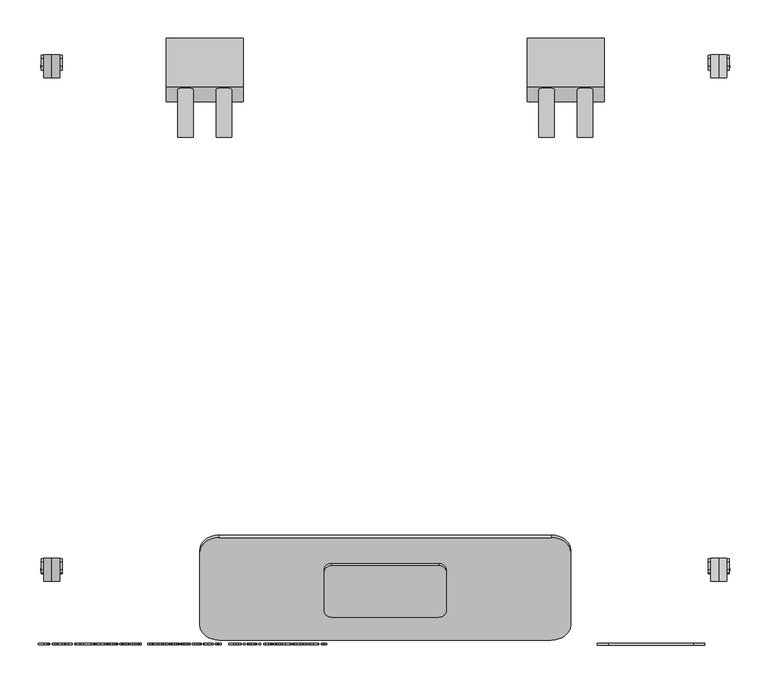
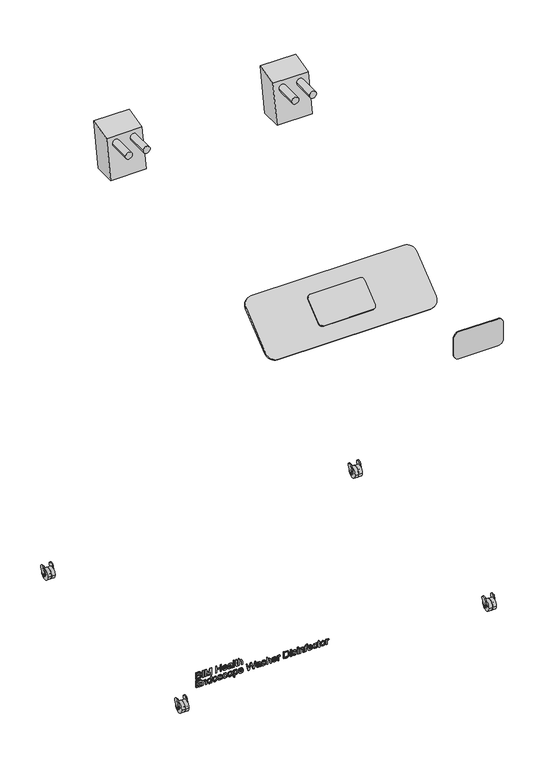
"""IFC4 building model written with IfcOpenShell, lengths in millimetres: proxy geometry, BIMHealth-Endoscope_Washer_Disinfector-LOD2A-v1 : BIMHealth-Endoscope_Washer_Disinfector-LOD2A-v1."""

from ifc_helpers import new_model, si_unit, point, frame, frame_2d, origin, place, context, project, spatial, polyline, circle_curve, trimmed, segment, composite_curve, outline, extrude, source, transform, mapped, element, save


def generic_models_fa798d0b(model_context):
    return source(origin(), model_context, "Body", "SweptSolid", [
        extrude(outline(composite_curve([segment(trimmed(circle_curve(frame_2d((-318.4903608, 15.008335)), 1.691665), [point((-316.7986957, 15.008335))], [point((-320.1820258, 15.008335))], False, "CARTESIAN"), True, "CONTINUOUS"), segment(trimmed(circle_curve(frame_2d((-318.4903608, 15.008335)), 1.691665), [point((-320.1820258, 15.008335))], [point((-316.7986957, 15.008335))], False, "CARTESIAN"), True, "CONTINUOUS")], self_intersect=False)), frame((-448.0086394, 0.0, 0.0), z_axis=(1.0, 0.0, 0.0), x_axis=(0.0, 1.0, 0.0)), (0.0, 0.0, 1.0), 27.815557),
        extrude(outline(composite_curve([segment(polyline([(-304.9439148, 28.8074652), (-314.9439148, 11.4869571)]), True, "CONTINUOUS"), segment(trimmed(circle_curve(frame_2d((-318.4932776, 15.0363199)), 5.019557), [point((-314.9439148, 11.4869571))], [point((-323.3417974, 16.3354769))], False, "CARTESIAN"), True, "CONTINUOUS"), segment(polyline([(-323.3417974, 16.3354769), (-317.5368059, 38.0), (-308.6759076, 38.0)]), True, "CONTINUOUS"), segment(trimmed(circle_curve(frame_2d((-310.3884962, 31.9508957)), 6.2868611), [point((-308.6759076, 38.0))], [point((-304.9439148, 28.8074652))], False, "CARTESIAN"), True, "CONTINUOUS")], self_intersect=False), holes=[composite_curve([segment(trimmed(circle_curve(frame_2d((-318.4932776, 15.0363199)), 1.6662236), [point((-316.8270541, 15.0363199))], [point((-320.1595012, 15.0363199))], True, "CARTESIAN"), True, "CONTINUOUS"), segment(trimmed(circle_curve(frame_2d((-318.4932776, 15.0363199)), 1.6662236), [point((-320.1595012, 15.0363199))], [point((-316.8270541, 15.0363199))], True, "CARTESIAN"), True, "CONTINUOUS")], self_intersect=False)]), frame((-447.5086394, 0.0, 0.0), z_axis=(1.0, 0.0, 0.0), x_axis=(0.0, 1.0, 0.0)), (0.0, 0.0, 1.0), 2.5),
        extrude(outline(composite_curve([segment(polyline([(-304.9439148, 28.8074652), (-314.9439148, 11.4869571)]), True, "CONTINUOUS"), segment(trimmed(circle_curve(frame_2d((-318.4932776, 15.0363199)), 5.019557), [point((-314.9439148, 11.4869571))], [point((-323.3417974, 16.3354769))], False, "CARTESIAN"), True, "CONTINUOUS"), segment(polyline([(-323.3417974, 16.3354769), (-317.5368059, 38.0), (-308.6759076, 38.0)]), True, "CONTINUOUS"), segment(trimmed(circle_curve(frame_2d((-310.3884962, 31.9508957)), 6.2868611), [point((-308.6759076, 38.0))], [point((-304.9439148, 28.8074652))], False, "CARTESIAN"), True, "CONTINUOUS")], self_intersect=False), holes=[composite_curve([segment(trimmed(circle_curve(frame_2d((-318.4932776, 15.0363199)), 1.6662236), [point((-316.8270541, 15.0363199))], [point((-320.1595012, 15.0363199))], True, "CARTESIAN"), True, "CONTINUOUS"), segment(trimmed(circle_curve(frame_2d((-318.4932776, 15.0363199)), 1.6662236), [point((-320.1595012, 15.0363199))], [point((-316.8270541, 15.0363199))], True, "CARTESIAN"), True, "CONTINUOUS")], self_intersect=False)]), frame((-423.0086394, 0.0, 0.0), z_axis=(1.0, 0.0, 0.0), x_axis=(0.0, 1.0, 0.0)), (0.0, 0.0, 1.0), 2.5),
        extrude(outline(composite_curve([segment(trimmed(circle_curve(frame_2d((-318.4903608, 15.0)), 15.0), [point((-303.4903608, 15.0))], [point((-333.4903608, 15.0))], False, "CARTESIAN"), True, "CONTINUOUS"), segment(trimmed(circle_curve(frame_2d((-318.4903608, 15.0)), 15.0), [point((-333.4903608, 15.0))], [point((-303.4903608, 15.0))], False, "CARTESIAN"), True, "CONTINUOUS")], self_intersect=False), holes=[composite_curve([segment(trimmed(circle_curve(frame_2d((-318.4903608, 15.0)), 1.7), [point((-316.7903608, 15.0))], [point((-320.1903608, 15.0))], True, "CARTESIAN"), True, "CONTINUOUS"), segment(trimmed(circle_curve(frame_2d((-318.4903608, 15.0)), 1.7), [point((-320.1903608, 15.0))], [point((-316.7903608, 15.0))], True, "CARTESIAN"), True, "CONTINUOUS")], self_intersect=False)]), frame((-444.3836394, 0.0, 0.0), z_axis=(1.0, 0.0, 0.0), x_axis=(0.0, 1.0, 0.0)), (0.0, 0.0, 1.0), 10.0),
        extrude(outline(composite_curve([segment(trimmed(circle_curve(frame_2d((-318.4903608, 15.0)), 15.0), [point((-303.4903608, 15.0))], [point((-333.4903608, 15.0))], False, "CARTESIAN"), True, "CONTINUOUS"), segment(trimmed(circle_curve(frame_2d((-318.4903608, 15.0)), 15.0), [point((-333.4903608, 15.0))], [point((-303.4903608, 15.0))], False, "CARTESIAN"), True, "CONTINUOUS")], self_intersect=False), holes=[composite_curve([segment(trimmed(circle_curve(frame_2d((-318.4903608, 15.0)), 1.7), [point((-316.7903608, 15.0))], [point((-320.1903608, 15.0))], True, "CARTESIAN"), True, "CONTINUOUS"), segment(trimmed(circle_curve(frame_2d((-318.4903608, 15.0)), 1.7), [point((-320.1903608, 15.0))], [point((-316.7903608, 15.0))], True, "CARTESIAN"), True, "CONTINUOUS")], self_intersect=False)]), frame((-433.6336394, 0.0, 0.0), z_axis=(1.0, 0.0, 0.0), x_axis=(0.0, 1.0, 0.0)), (0.0, 0.0, 1.0), 10.0),
        extrude(outline(composite_curve([segment(trimmed(circle_curve(frame_2d((-318.4903608, 15.008335)), 1.691665), [point((-316.7986957, 15.008335))], [point((-320.1820258, 15.008335))], False, "CARTESIAN"), True, "CONTINUOUS"), segment(trimmed(circle_curve(frame_2d((-318.4903608, 15.008335)), 1.691665), [point((-320.1820258, 15.008335))], [point((-316.7986957, 15.008335))], False, "CARTESIAN"), True, "CONTINUOUS")], self_intersect=False)), frame((420.1930824, 0.0, 0.0), z_axis=(1.0, 0.0, 0.0), x_axis=(0.0, 1.0, 0.0)), (0.0, 0.0, 1.0), 27.815557),
        extrude(outline(composite_curve([segment(polyline([(-304.9439148, 28.8074652), (-314.9439148, 11.4869571)]), True, "CONTINUOUS"), segment(trimmed(circle_curve(frame_2d((-318.4932776, 15.0363199)), 5.019557), [point((-314.9439148, 11.4869571))], [point((-323.3417974, 16.3354769))], False, "CARTESIAN"), True, "CONTINUOUS"), segment(polyline([(-323.3417974, 16.3354769), (-317.5368059, 38.0), (-308.6759076, 38.0)]), True, "CONTINUOUS"), segment(trimmed(circle_curve(frame_2d((-310.3884962, 31.9508957)), 6.2868611), [point((-308.6759076, 38.0))], [point((-304.9439148, 28.8074652))], False, "CARTESIAN"), True, "CONTINUOUS")], self_intersect=False), holes=[composite_curve([segment(trimmed(circle_curve(frame_2d((-318.4932776, 15.0363199)), 1.6662236), [point((-316.8270541, 15.0363199))], [point((-320.1595012, 15.0363199))], True, "CARTESIAN"), True, "CONTINUOUS"), segment(trimmed(circle_curve(frame_2d((-318.4932776, 15.0363199)), 1.6662236), [point((-320.1595012, 15.0363199))], [point((-316.8270541, 15.0363199))], True, "CARTESIAN"), True, "CONTINUOUS")], self_intersect=False)]), frame((445.0086394, 0.0, 0.0), z_axis=(1.0, 0.0, 0.0), x_axis=(0.0, 1.0, 0.0)), (0.0, 0.0, 1.0), 2.5),
        extrude(outline(composite_curve([segment(polyline([(-304.9439148, 28.8074652), (-314.9439148, 11.4869571)]), True, "CONTINUOUS"), segment(trimmed(circle_curve(frame_2d((-318.4932776, 15.0363199)), 5.019557), [point((-314.9439148, 11.4869571))], [point((-323.3417974, 16.3354769))], False, "CARTESIAN"), True, "CONTINUOUS"), segment(polyline([(-323.3417974, 16.3354769), (-317.5368059, 38.0), (-308.6759076, 38.0)]), True, "CONTINUOUS"), segment(trimmed(circle_curve(frame_2d((-310.3884962, 31.9508957)), 6.2868611), [point((-308.6759076, 38.0))], [point((-304.9439148, 28.8074652))], False, "CARTESIAN"), True, "CONTINUOUS")], self_intersect=False), holes=[composite_curve([segment(trimmed(circle_curve(frame_2d((-318.4932776, 15.0363199)), 1.6662236), [point((-316.8270541, 15.0363199))], [point((-320.1595012, 15.0363199))], True, "CARTESIAN"), True, "CONTINUOUS"), segment(trimmed(circle_curve(frame_2d((-318.4932776, 15.0363199)), 1.6662236), [point((-320.1595012, 15.0363199))], [point((-316.8270541, 15.0363199))], True, "CARTESIAN"), True, "CONTINUOUS")], self_intersect=False)]), frame((420.5086394, 0.0, 0.0), z_axis=(1.0, 0.0, 0.0), x_axis=(0.0, 1.0, 0.0)), (0.0, 0.0, 1.0), 2.5),
        extrude(outline(composite_curve([segment(trimmed(circle_curve(frame_2d((-318.4903608, 15.0)), 15.0), [point((-303.4903608, 15.0))], [point((-333.4903608, 15.0))], False, "CARTESIAN"), True, "CONTINUOUS"), segment(trimmed(circle_curve(frame_2d((-318.4903608, 15.0)), 15.0), [point((-333.4903608, 15.0))], [point((-303.4903608, 15.0))], False, "CARTESIAN"), True, "CONTINUOUS")], self_intersect=False), holes=[composite_curve([segment(trimmed(circle_curve(frame_2d((-318.4903608, 15.0)), 1.7), [point((-316.7903608, 15.0))], [point((-320.1903608, 15.0))], True, "CARTESIAN"), True, "CONTINUOUS"), segment(trimmed(circle_curve(frame_2d((-318.4903608, 15.0)), 1.7), [point((-320.1903608, 15.0))], [point((-316.7903608, 15.0))], True, "CARTESIAN"), True, "CONTINUOUS")], self_intersect=False)]), frame((434.3836394, 0.0, 0.0), z_axis=(1.0, 0.0, 0.0), x_axis=(0.0, 1.0, 0.0)), (0.0, 0.0, 1.0), 10.0),
        extrude(outline(composite_curve([segment(trimmed(circle_curve(frame_2d((-318.4903608, 15.0)), 15.0), [point((-303.4903608, 15.0))], [point((-333.4903608, 15.0))], False, "CARTESIAN"), True, "CONTINUOUS"), segment(trimmed(circle_curve(frame_2d((-318.4903608, 15.0)), 15.0), [point((-333.4903608, 15.0))], [point((-303.4903608, 15.0))], False, "CARTESIAN"), True, "CONTINUOUS")], self_intersect=False), holes=[composite_curve([segment(trimmed(circle_curve(frame_2d((-318.4903608, 15.0)), 1.7), [point((-316.7903608, 15.0))], [point((-320.1903608, 15.0))], True, "CARTESIAN"), True, "CONTINUOUS"), segment(trimmed(circle_curve(frame_2d((-318.4903608, 15.0)), 1.7), [point((-320.1903608, 15.0))], [point((-316.7903608, 15.0))], True, "CARTESIAN"), True, "CONTINUOUS")], self_intersect=False)]), frame((423.6336394, 0.0, 0.0), z_axis=(1.0, 0.0, 0.0), x_axis=(0.0, 1.0, 0.0)), (0.0, 0.0, 1.0), 10.0),
        extrude(outline(composite_curve([segment(trimmed(circle_curve(frame_2d((336.5096392, 15.008335)), 1.691665), [point((338.2013043, 15.008335))], [point((334.8179742, 15.008335))], False, "CARTESIAN"), True, "CONTINUOUS"), segment(trimmed(circle_curve(frame_2d((336.5096392, 15.008335)), 1.691665), [point((334.8179742, 15.008335))], [point((338.2013043, 15.008335))], False, "CARTESIAN"), True, "CONTINUOUS")], self_intersect=False)), frame((-448.0086394, 0.0, 0.0), z_axis=(1.0, 0.0, 0.0), x_axis=(0.0, 1.0, 0.0)), (0.0, 0.0, 1.0), 27.815557),
        extrude(outline(composite_curve([segment(polyline([(350.0560852, 28.8074652), (340.0560852, 11.4869571)]), True, "CONTINUOUS"), segment(trimmed(circle_curve(frame_2d((336.5067224, 15.0363199)), 5.019557), [point((340.0560852, 11.4869571))], [point((331.6582026, 16.3354769))], False, "CARTESIAN"), True, "CONTINUOUS"), segment(polyline([(331.6582026, 16.3354769), (337.4631941, 38.0), (346.3240924, 38.0)]), True, "CONTINUOUS"), segment(trimmed(circle_curve(frame_2d((344.6115038, 31.9508957)), 6.2868611), [point((346.3240924, 38.0))], [point((350.0560852, 28.8074652))], False, "CARTESIAN"), True, "CONTINUOUS")], self_intersect=False), holes=[composite_curve([segment(trimmed(circle_curve(frame_2d((336.5067224, 15.0363199)), 1.6662236), [point((338.1729459, 15.0363199))], [point((334.8404988, 15.0363199))], True, "CARTESIAN"), True, "CONTINUOUS"), segment(trimmed(circle_curve(frame_2d((336.5067224, 15.0363199)), 1.6662236), [point((334.8404988, 15.0363199))], [point((338.1729459, 15.0363199))], True, "CARTESIAN"), True, "CONTINUOUS")], self_intersect=False)]), frame((-447.5086394, 0.0, 0.0), z_axis=(1.0, 0.0, 0.0), x_axis=(0.0, 1.0, 0.0)), (0.0, 0.0, 1.0), 2.5),
        extrude(outline(composite_curve([segment(polyline([(350.0560852, 28.8074652), (340.0560852, 11.4869571)]), True, "CONTINUOUS"), segment(trimmed(circle_curve(frame_2d((336.5067224, 15.0363199)), 5.019557), [point((340.0560852, 11.4869571))], [point((331.6582026, 16.3354769))], False, "CARTESIAN"), True, "CONTINUOUS"), segment(polyline([(331.6582026, 16.3354769), (337.4631941, 38.0), (346.3240924, 38.0)]), True, "CONTINUOUS"), segment(trimmed(circle_curve(frame_2d((344.6115038, 31.9508957)), 6.2868611), [point((346.3240924, 38.0))], [point((350.0560852, 28.8074652))], False, "CARTESIAN"), True, "CONTINUOUS")], self_intersect=False), holes=[composite_curve([segment(trimmed(circle_curve(frame_2d((336.5067224, 15.0363199)), 1.6662236), [point((338.1729459, 15.0363199))], [point((334.8404988, 15.0363199))], True, "CARTESIAN"), True, "CONTINUOUS"), segment(trimmed(circle_curve(frame_2d((336.5067224, 15.0363199)), 1.6662236), [point((334.8404988, 15.0363199))], [point((338.1729459, 15.0363199))], True, "CARTESIAN"), True, "CONTINUOUS")], self_intersect=False)]), frame((-423.0086394, 0.0, 0.0), z_axis=(1.0, 0.0, 0.0), x_axis=(0.0, 1.0, 0.0)), (0.0, 0.0, 1.0), 2.5),
        extrude(outline(composite_curve([segment(trimmed(circle_curve(frame_2d((336.5096392, 15.0)), 15.0), [point((351.5096392, 15.0))], [point((321.5096392, 15.0))], False, "CARTESIAN"), True, "CONTINUOUS"), segment(trimmed(circle_curve(frame_2d((336.5096392, 15.0)), 15.0), [point((321.5096392, 15.0))], [point((351.5096392, 15.0))], False, "CARTESIAN"), True, "CONTINUOUS")], self_intersect=False), holes=[composite_curve([segment(trimmed(circle_curve(frame_2d((336.5096392, 15.0)), 1.7), [point((338.2096392, 15.0))], [point((334.8096392, 15.0))], True, "CARTESIAN"), True, "CONTINUOUS"), segment(trimmed(circle_curve(frame_2d((336.5096392, 15.0)), 1.7), [point((334.8096392, 15.0))], [point((338.2096392, 15.0))], True, "CARTESIAN"), True, "CONTINUOUS")], self_intersect=False)]), frame((-444.3836394, 0.0, 0.0), z_axis=(1.0, 0.0, 0.0), x_axis=(0.0, 1.0, 0.0)), (0.0, 0.0, 1.0), 10.0),
        extrude(outline(composite_curve([segment(trimmed(circle_curve(frame_2d((336.5096392, 15.0)), 15.0), [point((351.5096392, 15.0))], [point((321.5096392, 15.0))], False, "CARTESIAN"), True, "CONTINUOUS"), segment(trimmed(circle_curve(frame_2d((336.5096392, 15.0)), 15.0), [point((321.5096392, 15.0))], [point((351.5096392, 15.0))], False, "CARTESIAN"), True, "CONTINUOUS")], self_intersect=False), holes=[composite_curve([segment(trimmed(circle_curve(frame_2d((336.5096392, 15.0)), 1.7), [point((338.2096392, 15.0))], [point((334.8096392, 15.0))], True, "CARTESIAN"), True, "CONTINUOUS"), segment(trimmed(circle_curve(frame_2d((336.5096392, 15.0)), 1.7), [point((334.8096392, 15.0))], [point((338.2096392, 15.0))], True, "CARTESIAN"), True, "CONTINUOUS")], self_intersect=False)]), frame((-433.6336394, 0.0, 0.0), z_axis=(1.0, 0.0, 0.0), x_axis=(0.0, 1.0, 0.0)), (0.0, 0.0, 1.0), 10.0),
        extrude(outline(composite_curve([segment(trimmed(circle_curve(frame_2d((336.5096392, 15.008335)), 1.691665), [point((338.2013043, 15.008335))], [point((334.8179742, 15.008335))], False, "CARTESIAN"), True, "CONTINUOUS"), segment(trimmed(circle_curve(frame_2d((336.5096392, 15.008335)), 1.691665), [point((334.8179742, 15.008335))], [point((338.2013043, 15.008335))], False, "CARTESIAN"), True, "CONTINUOUS")], self_intersect=False)), frame((420.1930824, 0.0, 0.0), z_axis=(1.0, 0.0, 0.0), x_axis=(0.0, 1.0, 0.0)), (0.0, 0.0, 1.0), 27.815557),
        extrude(outline(composite_curve([segment(polyline([(350.0560852, 28.8074652), (340.0560852, 11.4869571)]), True, "CONTINUOUS"), segment(trimmed(circle_curve(frame_2d((336.5067224, 15.0363199)), 5.019557), [point((340.0560852, 11.4869571))], [point((331.6582026, 16.3354769))], False, "CARTESIAN"), True, "CONTINUOUS"), segment(polyline([(331.6582026, 16.3354769), (337.4631941, 38.0), (346.3240924, 38.0)]), True, "CONTINUOUS"), segment(trimmed(circle_curve(frame_2d((344.6115038, 31.9508957)), 6.2868611), [point((346.3240924, 38.0))], [point((350.0560852, 28.8074652))], False, "CARTESIAN"), True, "CONTINUOUS")], self_intersect=False), holes=[composite_curve([segment(trimmed(circle_curve(frame_2d((336.5067224, 15.0363199)), 1.6662236), [point((338.1729459, 15.0363199))], [point((334.8404988, 15.0363199))], True, "CARTESIAN"), True, "CONTINUOUS"), segment(trimmed(circle_curve(frame_2d((336.5067224, 15.0363199)), 1.6662236), [point((334.8404988, 15.0363199))], [point((338.1729459, 15.0363199))], True, "CARTESIAN"), True, "CONTINUOUS")], self_intersect=False)]), frame((445.0086394, 0.0, 0.0), z_axis=(1.0, 0.0, 0.0), x_axis=(0.0, 1.0, 0.0)), (0.0, 0.0, 1.0), 2.5),
        extrude(outline(composite_curve([segment(polyline([(350.0560852, 28.8074652), (340.0560852, 11.4869571)]), True, "CONTINUOUS"), segment(trimmed(circle_curve(frame_2d((336.5067224, 15.0363199)), 5.019557), [point((340.0560852, 11.4869571))], [point((331.6582026, 16.3354769))], False, "CARTESIAN"), True, "CONTINUOUS"), segment(polyline([(331.6582026, 16.3354769), (337.4631941, 38.0), (346.3240924, 38.0)]), True, "CONTINUOUS"), segment(trimmed(circle_curve(frame_2d((344.6115038, 31.9508957)), 6.2868611), [point((346.3240924, 38.0))], [point((350.0560852, 28.8074652))], False, "CARTESIAN"), True, "CONTINUOUS")], self_intersect=False), holes=[composite_curve([segment(trimmed(circle_curve(frame_2d((336.5067224, 15.0363199)), 1.6662236), [point((338.1729459, 15.0363199))], [point((334.8404988, 15.0363199))], True, "CARTESIAN"), True, "CONTINUOUS"), segment(trimmed(circle_curve(frame_2d((336.5067224, 15.0363199)), 1.6662236), [point((334.8404988, 15.0363199))], [point((338.1729459, 15.0363199))], True, "CARTESIAN"), True, "CONTINUOUS")], self_intersect=False)]), frame((420.5086394, 0.0, 0.0), z_axis=(1.0, 0.0, 0.0), x_axis=(0.0, 1.0, 0.0)), (0.0, 0.0, 1.0), 2.5),
        extrude(outline(composite_curve([segment(trimmed(circle_curve(frame_2d((336.5096392, 15.0)), 15.0), [point((351.5096392, 15.0))], [point((321.5096392, 15.0))], False, "CARTESIAN"), True, "CONTINUOUS"), segment(trimmed(circle_curve(frame_2d((336.5096392, 15.0)), 15.0), [point((321.5096392, 15.0))], [point((351.5096392, 15.0))], False, "CARTESIAN"), True, "CONTINUOUS")], self_intersect=False), holes=[composite_curve([segment(trimmed(circle_curve(frame_2d((336.5096392, 15.0)), 1.7), [point((338.2096392, 15.0))], [point((334.8096392, 15.0))], True, "CARTESIAN"), True, "CONTINUOUS"), segment(trimmed(circle_curve(frame_2d((336.5096392, 15.0)), 1.7), [point((334.8096392, 15.0))], [point((338.2096392, 15.0))], True, "CARTESIAN"), True, "CONTINUOUS")], self_intersect=False)]), frame((434.3836394, 0.0, 0.0), z_axis=(1.0, 0.0, 0.0), x_axis=(0.0, 1.0, 0.0)), (0.0, 0.0, 1.0), 10.0),
        extrude(outline(composite_curve([segment(trimmed(circle_curve(frame_2d((336.5096392, 15.0)), 15.0), [point((351.5096392, 15.0))], [point((321.5096392, 15.0))], False, "CARTESIAN"), True, "CONTINUOUS"), segment(trimmed(circle_curve(frame_2d((336.5096392, 15.0)), 15.0), [point((321.5096392, 15.0))], [point((351.5096392, 15.0))], False, "CARTESIAN"), True, "CONTINUOUS")], self_intersect=False), holes=[composite_curve([segment(trimmed(circle_curve(frame_2d((336.5096392, 15.0)), 1.7), [point((338.2096392, 15.0))], [point((334.8096392, 15.0))], True, "CARTESIAN"), True, "CONTINUOUS"), segment(trimmed(circle_curve(frame_2d((336.5096392, 15.0)), 1.7), [point((334.8096392, 15.0))], [point((338.2096392, 15.0))], True, "CARTESIAN"), True, "CONTINUOUS")], self_intersect=False)]), frame((423.6336394, 0.0, 0.0), z_axis=(1.0, 0.0, 0.0), x_axis=(0.0, 1.0, 0.0)), (0.0, 0.0, 1.0), 10.0),
        extrude(outline(composite_curve([segment(polyline([(937.9659967, 400.7121143), (937.9659967, 290.7121143)]), True, "CONTINUOUS"), segment(trimmed(circle_curve(frame_2d((922.9659967, 290.7121143)), 15.0), [point((937.9659967, 290.7121143))], [point((922.9659967, 275.7121143))], False, "CARTESIAN"), True, "CONTINUOUS"), segment(polyline([(922.9659967, 275.7121143), (872.9659967, 275.7121143)]), True, "CONTINUOUS"), segment(trimmed(circle_curve(frame_2d((872.9659967, 290.7121143)), 15.0), [point((872.9659967, 275.7121143))], [point((857.9659967, 290.7121143))], False, "CARTESIAN"), True, "CONTINUOUS"), segment(polyline([(857.9659967, 290.7121143), (857.9659967, 400.7121143)]), True, "CONTINUOUS"), segment(trimmed(circle_curve(frame_2d((872.9659967, 400.7121143)), 15.0), [point((857.9659967, 400.7121143))], [point((872.9659967, 415.7121143))], False, "CARTESIAN"), True, "CONTINUOUS"), segment(polyline([(872.9659967, 415.7121143), (922.9659967, 415.7121143)]), True, "CONTINUOUS"), segment(trimmed(circle_curve(frame_2d((922.9659967, 400.7121143)), 15.0), [point((922.9659967, 415.7121143))], [point((937.9659967, 400.7121143))], False, "CARTESIAN"), True, "CONTINUOUS")], self_intersect=False)), frame((0.0, -416.6759076, 0.0), z_axis=(0.0, 1.0, 0.0), x_axis=(0.0, 0.0, 1.0)), (0.0, 0.0, 1.0), 2.5),
        extrude(outline(composite_curve([segment(trimmed(circle_curve(frame_2d((1256.2528916, 260.0)), 10.0), [point((1256.2528916, 270.0))], [point((1256.2528916, 250.0))], False, "CARTESIAN"), True, "CONTINUOUS"), segment(trimmed(circle_curve(frame_2d((1256.2528916, 260.0)), 10.0), [point((1256.2528916, 250.0))], [point((1256.2528916, 270.0))], False, "CARTESIAN"), True, "CONTINUOUS")], self_intersect=False)), frame((0.0, 244.1180955, 0.0), z_axis=(0.0, 1.0, 0.0), x_axis=(0.0, 0.0, 1.0)), (0.0, 0.0, 1.0), 65.8514449),
        extrude(outline(composite_curve([segment(trimmed(circle_curve(frame_2d((1256.2528916, 210.0)), 10.0), [point((1256.2528916, 200.0))], [point((1256.2528916, 220.0))], False, "CARTESIAN"), True, "CONTINUOUS"), segment(trimmed(circle_curve(frame_2d((1256.2528916, 210.0)), 10.0), [point((1256.2528916, 220.0))], [point((1256.2528916, 200.0))], False, "CARTESIAN"), True, "CONTINUOUS")], self_intersect=False)), frame((0.0, 244.1180955, 0.0), z_axis=(0.0, 1.0, 0.0), x_axis=(0.0, 0.0, 1.0)), (0.0, 0.0, 1.0), 65.8514449),
        extrude(outline(composite_curve([segment(trimmed(circle_curve(frame_2d((1256.2528916, -210.0)), 10.0), [point((1256.2528916, -200.0))], [point((1256.2528916, -220.0))], False, "CARTESIAN"), True, "CONTINUOUS"), segment(trimmed(circle_curve(frame_2d((1256.2528916, -210.0)), 10.0), [point((1256.2528916, -220.0))], [point((1256.2528916, -200.0))], False, "CARTESIAN"), True, "CONTINUOUS")], self_intersect=False)), frame((0.0, 244.1180955, 0.0), z_axis=(0.0, 1.0, 0.0), x_axis=(0.0, 0.0, 1.0)), (0.0, 0.0, 1.0), 65.8514449),
        extrude(outline(composite_curve([segment(trimmed(circle_curve(frame_2d((1256.2528916, -260.0)), 10.0), [point((1256.2528916, -270.0))], [point((1256.2528916, -250.0))], False, "CARTESIAN"), True, "CONTINUOUS"), segment(trimmed(circle_curve(frame_2d((1256.2528916, -260.0)), 10.0), [point((1256.2528916, -250.0))], [point((1256.2528916, -270.0))], False, "CARTESIAN"), True, "CONTINUOUS")], self_intersect=False)), frame((0.0, 244.1180955, 0.0), z_axis=(0.0, 1.0, 0.0), x_axis=(0.0, 0.0, 1.0)), (0.0, 0.0, 1.0), 65.8514449),
        extrude(outline(polyline([(290.0, 1163.0), (309.9695404, 1276.2528916), (372.5742631, 1291.0250079), (350.0, 1163.0), (290.0, 1163.0)])), frame((-285.0, 0.0, 0.0), z_axis=(1.0, 0.0, 0.0), x_axis=(0.0, 1.0, 0.0)), (0.0, 0.0, 1.0), 100.0),
        extrude(outline(polyline([(290.0, 1163.0), (309.9695404, 1276.2528916), (372.5742631, 1291.0250079), (350.0, 1163.0), (290.0, 1163.0)])), frame((185.0, 0.0, 0.0), z_axis=(1.0, 0.0, 0.0), x_axis=(0.0, 1.0, 0.0)), (0.0, 0.0, 1.0), 100.0),
        extrude(outline(polyline([(159.0282221, -451.2091878), (159.0282221, -443.752457), (159.3671645, -440.596207), (160.3671645, -438.4543801), (162.2517798, -437.0192839), (164.8984145, -436.439957), (167.9609145, -437.2885147), (169.7974529, -439.7139955), (171.5402414, -437.7163993), (173.8407221, -437.0553416), (176.3599529, -437.8413993), (178.1412029, -440.0144763), (178.7205298, -443.6947647), (178.7205298, -451.2091878), (159.0282221, -451.2091878)]), holes=[polyline([(170.7205298, -448.7476493), (176.2589914, -448.7476493), (176.2589914, -444.5938032), (176.0017798, -441.4303416), (175.0522606, -440.0120724), (173.4464914, -439.5168801), (171.843126, -440.0481301), (170.9320683, -441.627457), (170.7205298, -444.252457), (170.7205298, -448.7476493)]), polyline([(161.4897606, -448.7476493), (168.2589914, -448.7476493), (168.2589914, -443.939957), (167.9296645, -440.8990916), (166.7878375, -439.3726493), (164.874376, -438.9014955), (162.1219721, -440.3269763), (161.5859145, -441.8726493), (161.4897606, -443.6995724), (161.4897606, -448.7476493)])]), frame((0.0, -416.1759076, 0.0), z_axis=(0.0, 1.0, 0.0), x_axis=(0.0, 0.0, 1.0)), (0.0, 0.0, 1.0), 2.0),
        extrude(outline(polyline([(-430.2861109, -416.1759076), (-432.7476493, -416.1759076), (-432.7476493, -414.1759076), (-430.2861109, -414.1759076), (-430.2861109, -416.1759076)])), frame((0.0, 0.0, 159.0282221), z_axis=(0.0, 0.0, 1.0), x_axis=(1.0, 0.0, 0.0)), (0.0, 0.0, 1.0), 19.6923077),
        extrude(outline(polyline([(159.0282221, -425.3630339), (159.0282221, -422.9014955), (176.2589914, -422.9014955), (159.0282221, -417.9495724), (159.0282221, -414.6178416), (176.2589914, -409.6707263), (159.0282221, -409.6707263), (159.0282221, -407.2091878), (178.7205298, -407.2091878), (178.7205298, -411.4447647), (165.0811068, -415.4063032), (161.9416837, -416.2861109), (164.8407221, -417.1034186), (178.7205298, -421.1418801), (178.7205298, -425.3630339), (159.0282221, -425.3630339)])), frame((0.0, -416.1759076, 0.0), z_axis=(0.0, 1.0, 0.0), x_axis=(0.0, 0.0, 1.0)), (0.0, 0.0, 1.0), 2.0),
        extrude(outline(polyline([(159.0282221, -395.2091878), (159.0282221, -392.7476493), (168.2589914, -392.7476493), (168.2589914, -382.2861109), (159.0282221, -382.2861109), (159.0282221, -379.8245724), (178.7205298, -379.8245724), (178.7205298, -382.2861109), (170.7205298, -382.2861109), (170.7205298, -392.7476493), (178.7205298, -392.7476493), (178.7205298, -395.2091878), (159.0282221, -395.2091878)])), frame((0.0, -416.1759076, 0.0), z_axis=(0.0, 1.0, 0.0), x_axis=(0.0, 0.0, 1.0)), (0.0, 0.0, 1.0), 2.0),
        extrude(outline(polyline([(163.3359145, -365.6995724), (161.6964914, -367.2861109), (161.1820683, -369.6995724), (162.2926452, -372.8702455), (165.4897606, -374.2861109), (166.1532221, -363.2091878), (171.7926452, -365.0769763), (173.7974529, -369.8870724), (171.7878375, -374.8389955), (166.1387991, -376.7476493), (160.6700491, -374.8582263), (158.7205298, -369.7476493), (159.8503375, -365.5433224), (163.0282221, -363.2861109), (163.3359145, -365.6995724)]), holes=[polyline([(167.9512991, -374.2861109), (170.4152414, -372.9279378), (171.3359145, -369.8966878), (170.1820683, -366.6563032), (167.9512991, -365.6707263), (167.9512991, -374.2861109)])]), frame((0.0, -416.1759076, 0.0), z_axis=(0.0, 1.0, 0.0), x_axis=(0.0, 0.0, 1.0)), (0.0, 0.0, 1.0), 2.0),
        extrude(outline(polyline([(160.874376, -351.5168801), (159.0282221, -350.9014955), (159.0282221, -348.439957), (161.0979337, -348.9303416), (165.374376, -349.0553416), (168.436876, -349.0553416), (170.5907221, -349.1755339), (172.2613952, -349.9303416), (173.3599529, -351.6154378), (173.7974529, -354.5986109), (173.3022606, -357.846207), (171.8936068, -359.9904378), (169.4897606, -361.0553416), (169.1820683, -358.5938032), (170.8623568, -357.4063032), (171.3359145, -354.9159186), (170.624376, -352.1947647), (168.2589914, -351.5313032), (167.4128375, -355.8005339), (167.0426452, -357.9303416), (166.2349529, -359.6538993), (164.8214914, -360.8918801), (162.874376, -361.3630339), (159.8887991, -360.1154378), (158.7205298, -356.5409186), (159.2061068, -353.9038993), (160.874376, -351.5168801)]), holes=[polyline([(165.4488952, -351.5240916), (163.1964914, -351.9207263), (161.7710106, -353.5264955), (161.1820683, -356.0168801), (164.6436068, -357.6058224), (165.0426452, -355.4880339), (165.4488952, -351.5240916)])]), frame((0.0, -416.1759076, 0.0), z_axis=(0.0, 1.0, 0.0), x_axis=(0.0, 0.0, 1.0)), (0.0, 0.0, 1.0), 2.0),
        extrude(outline(polyline([(-343.2091878, -416.1759076), (-345.6707263, -416.1759076), (-345.6707263, -414.1759076), (-343.2091878, -414.1759076), (-343.2091878, -416.1759076)])), frame((0.0, 0.0, 159.0282221), z_axis=(0.0, 0.0, 1.0), x_axis=(1.0, 0.0, 0.0)), (0.0, 0.0, 1.0), 19.6923077),
        extrude(outline(polyline([(162.0738952, -335.5168801), (171.0282221, -336.7476493), (171.0282221, -334.2861109), (173.4897606, -334.2861109), (173.4897606, -336.7476493), (178.4512991, -336.7476493), (177.0041837, -339.2091878), (173.4897606, -339.2091878), (173.4897606, -341.0553416), (171.0282221, -341.0553416), (171.0282221, -339.2091878), (162.9945683, -339.2091878), (159.1291837, -337.8822647), (158.7205298, -335.8197647), (158.9561068, -333.9784186), (162.0738952, -335.5168801)])), frame((0.0, -416.1759076, 0.0), z_axis=(0.0, 1.0, 0.0), x_axis=(0.0, 0.0, 1.0)), (0.0, 0.0, 1.0), 2.0),
        extrude(outline(polyline([(159.0282221, -331.8245724), (159.0282221, -329.3630339), (166.7109145, -329.3630339), (169.3022606, -328.9615916), (170.7878375, -327.6154378), (171.3359145, -325.5986109), (170.5234145, -323.377457), (167.9272606, -322.5938032), (159.0282221, -322.5938032), (159.0282221, -320.1322647), (168.1820683, -320.1322647), (171.4176452, -320.6370724), (173.1652414, -322.314957), (173.7974529, -325.0793801), (171.4801452, -329.3630339), (178.7205298, -329.3630339), (178.7205298, -331.8245724), (159.0282221, -331.8245724)])), frame((0.0, -416.1759076, 0.0), z_axis=(0.0, 1.0, 0.0), x_axis=(0.0, 0.0, 1.0)), (0.0, 0.0, 1.0), 2.0),
        extrude(outline(polyline([(134.7205298, -451.2091878), (134.7205298, -436.7476493), (137.1820683, -436.7476493), (137.1820683, -448.7476493), (143.6436068, -448.7476493), (143.6436068, -437.6707263), (146.1051452, -437.6707263), (146.1051452, -448.7476493), (151.9512991, -448.7476493), (151.9512991, -437.0553416), (154.4128375, -437.0553416), (154.4128375, -451.2091878), (134.7205298, -451.2091878)])), frame((0.0, -416.1759076, 0.0), z_axis=(0.0, 1.0, 0.0), x_axis=(0.0, 0.0, 1.0)), (0.0, 0.0, 1.0), 2.0),
        extrude(outline(polyline([(134.7205298, -433.3630339), (134.7205298, -430.9014955), (142.3936068, -430.9014955), (146.061876, -429.7788993), (147.0282221, -427.1082263), (145.4464914, -424.4159186), (143.2686068, -424.1322647), (134.7205298, -424.1322647), (134.7205298, -421.6707263), (143.6003375, -421.6707263), (145.9801452, -421.8005339), (147.7902414, -422.5385147), (149.0210106, -424.1250532), (149.4897606, -426.4495724), (147.1628375, -430.9014955), (149.1820683, -430.9014955), (149.1820683, -433.3630339), (134.7205298, -433.3630339)])), frame((0.0, -416.1759076, 0.0), z_axis=(0.0, 1.0, 0.0), x_axis=(0.0, 0.0, 1.0)), (0.0, 0.0, 1.0), 2.0),
        extrude(outline(polyline([(134.7205298, -409.3630339), (134.7205298, -406.9014955), (154.4128375, -406.9014955), (154.4128375, -409.3630339), (147.0762991, -409.3630339), (148.8190875, -410.9832263), (149.4897606, -413.252457), (148.5522606, -416.3942839), (145.8551452, -418.5048609), (141.936876, -419.2091878), (138.0210106, -418.4447647), (135.3647606, -416.2909186), (134.4128375, -413.2428416), (137.0426452, -409.3630339), (134.7205298, -409.3630339)]), holes=[polyline([(141.9464914, -416.7476493), (145.8046645, -415.7091878), (147.0282221, -413.1178416), (145.7541837, -410.4471686), (141.7589914, -409.3630339), (138.0787029, -410.4279378), (136.874376, -413.0168801), (138.1363952, -415.6370724), (141.9464914, -416.7476493)])]), frame((0.0, -416.1759076, 0.0), z_axis=(0.0, 1.0, 0.0), x_axis=(0.0, 0.0, 1.0)), (0.0, 0.0, 1.0), 2.0),
        extrude(outline(polyline([(141.9512991, -403.8245724), (136.3551452, -402.0385147), (134.4128375, -397.3582263), (135.2950491, -394.0240916), (137.7734145, -391.6995724), (142.1532221, -390.9014955), (147.5402414, -392.7067839), (149.4897606, -397.3582263), (147.8887991, -401.6947647), (141.9512991, -403.8245724)]), holes=[polyline([(141.9561068, -401.3630339), (145.7662029, -400.2236109), (147.0282221, -397.3582263), (145.7613952, -394.5096686), (142.0330298, -393.3630339), (138.1484145, -394.502457), (136.874376, -397.3582263), (138.1412029, -400.2236109), (141.9561068, -401.3630339)])]), frame((0.0, -416.1759076, 0.0), z_axis=(0.0, 1.0, 0.0), x_axis=(0.0, 0.0, 1.0)), (0.0, 0.0, 1.0), 2.0),
        extrude(outline(polyline([(139.0282221, -389.0553416), (135.5762991, -387.1707263), (134.4128375, -382.877457), (135.0162029, -379.8293801), (136.7253375, -377.7692839), (139.0811068, -377.0553416), (141.2205298, -377.6635147), (142.5330298, -379.3413993), (143.6916837, -382.9543801), (146.561876, -385.5793801), (147.0282221, -383.2236109), (146.5402414, -381.0577455), (145.1820683, -380.1322647), (145.4897606, -377.6707263), (147.6988952, -378.5168801), (149.0065875, -380.4207263), (149.4897606, -383.4159186), (149.1892798, -385.533707), (148.4609145, -387.0986109), (147.0594721, -388.3053416), (145.2253375, -388.7476493), (143.2397606, -388.1971686), (141.8335106, -386.5793801), (140.6291837, -382.8726493), (138.8214914, -379.5168801), (137.4561068, -380.3341878), (136.874376, -382.8438032), (137.5089914, -385.4543801), (139.3359145, -386.5938032), (139.0282221, -389.0553416)])), frame((0.0, -416.1759076, 0.0), z_axis=(0.0, 1.0, 0.0), x_axis=(0.0, 0.0, 1.0)), (0.0, 0.0, 1.0), 2.0),
        extrude(outline(polyline([(139.9512991, -365.0553416), (137.6291837, -366.2356301), (136.874376, -368.5553416), (138.0835106, -371.3654378), (141.9657221, -372.439957), (145.811876, -371.3413993), (147.0282221, -368.4880339), (146.4104337, -366.5048609), (144.5666837, -365.3630339), (144.874376, -362.9014955), (148.2878375, -364.7644763), (149.4897606, -368.5072647), (148.6147606, -371.8558224), (145.9873568, -374.1490916), (141.8984145, -374.9014955), (136.3479337, -373.1394763), (134.4128375, -368.4736109), (135.7998568, -364.5697647), (139.6436068, -362.5938032), (139.9512991, -365.0553416)])), frame((0.0, -416.1759076, 0.0), z_axis=(0.0, 1.0, 0.0), x_axis=(0.0, 0.0, 1.0)), (0.0, 0.0, 1.0), 2.0),
        extrude(outline(polyline([(141.9512991, -361.0553416), (136.3551452, -359.2692839), (134.4128375, -354.5889955), (135.2950491, -351.2548609), (137.7734145, -348.9303416), (142.1532221, -348.1322647), (147.5402414, -349.9375532), (149.4897606, -354.5889955), (147.8887991, -358.9255339), (141.9512991, -361.0553416)]), holes=[polyline([(141.9561068, -358.5938032), (145.7662029, -357.4543801), (147.0282221, -354.5889955), (145.7613952, -351.7404378), (142.0330298, -350.5938032), (138.1484145, -351.7332263), (136.874376, -354.5889955), (138.1412029, -357.4543801), (141.9561068, -358.5938032)])]), frame((0.0, -416.1759076, 0.0), z_axis=(0.0, 1.0, 0.0), x_axis=(0.0, 0.0, 1.0)), (0.0, 0.0, 1.0), 2.0),
        extrude(outline(polyline([(129.1820683, -345.3630339), (129.1820683, -342.9014955), (136.6436068, -342.9014955), (135.0450491, -341.3413993), (134.4128375, -339.1995724), (135.3575491, -336.0865916), (138.0738952, -333.8317839), (142.061876, -333.0553416), (145.8551452, -333.7428416), (148.5378375, -335.7813032), (149.4897606, -338.9014955), (148.8094721, -341.1995724), (146.7686068, -342.9014955), (149.1820683, -342.9014955), (149.1820683, -345.3630339), (129.1820683, -345.3630339)]), holes=[polyline([(141.8359145, -342.9014955), (145.6988952, -341.7644763), (147.0282221, -339.1514955), (145.7782221, -336.5889955), (142.0186068, -335.5168801), (138.1291837, -336.6154378), (136.874376, -339.252457), (138.0859145, -341.8365916), (141.8359145, -342.9014955)])]), frame((0.0, -416.1759076, 0.0), z_axis=(0.0, 1.0, 0.0), x_axis=(0.0, 0.0, 1.0)), (0.0, 0.0, 1.0), 2.0),
        extrude(outline(polyline([(139.0282221, -320.1611109), (137.3887991, -321.7476493), (136.874376, -324.1611109), (137.9849529, -327.3317839), (141.1820683, -328.7476493), (141.8455298, -317.6707263), (147.4849529, -319.5385147), (149.4897606, -324.3486109), (147.4801452, -329.3005339), (141.8311068, -331.2091878), (136.3623568, -329.3197647), (134.4128375, -324.2091878), (135.5426452, -320.0048609), (138.7205298, -317.7476493), (139.0282221, -320.1611109)]), holes=[polyline([(143.6436068, -328.7476493), (146.1075491, -327.3894763), (147.0282221, -324.3582263), (145.874376, -321.1178416), (143.6436068, -320.1322647), (143.6436068, -328.7476493)])]), frame((0.0, -416.1759076, 0.0), z_axis=(0.0, 1.0, 0.0), x_axis=(0.0, 0.0, 1.0)), (0.0, 0.0, 1.0), 2.0),
        extrude(outline(polyline([(134.7205298, -303.6851493), (134.7205298, -300.7139955), (149.4801452, -296.4111109), (152.0330298, -295.6707263), (149.9128375, -295.0120724), (134.7205298, -290.2861109), (134.7205298, -287.6514955), (154.4128375, -282.2861109), (154.4128375, -284.8293801), (141.3551452, -287.9688032), (137.4753375, -288.9014955), (144.6964914, -291.0120724), (154.4128375, -293.8486109), (154.4128375, -297.5072647), (141.0089914, -301.4111109), (137.4753375, -302.439957), (141.4705298, -303.4014955), (154.4128375, -306.5168801), (154.4128375, -309.0553416), (134.7205298, -303.6851493)])), frame((0.0, -416.1759076, 0.0), z_axis=(0.0, 1.0, 0.0), x_axis=(0.0, 0.0, 1.0)), (0.0, 0.0, 1.0), 2.0),
        extrude(outline(polyline([(136.5666837, -270.9014955), (134.7205298, -270.2861109), (134.7205298, -267.8245724), (136.7902414, -268.314957), (141.0666837, -268.439957), (144.1291837, -268.439957), (146.2830298, -268.5601493), (147.9537029, -269.314957), (149.0522606, -271.0000532), (149.4897606, -273.9832263), (148.9945683, -277.2308224), (147.5859145, -279.3750532), (145.1820683, -280.439957), (144.874376, -277.9784186), (146.5546645, -276.7909186), (147.0282221, -274.3005339), (146.3166837, -271.5793801), (143.9512991, -270.9159186), (143.1051452, -275.1851493), (142.7349529, -277.314957), (141.9272606, -279.0385147), (140.5137991, -280.2764955), (138.5666837, -280.7476493), (135.5811068, -279.5000532), (134.4128375, -275.9255339), (134.8984145, -273.2885147), (136.5666837, -270.9014955)]), holes=[polyline([(141.1412029, -270.908707), (138.8887991, -271.3053416), (137.4633183, -272.9111109), (136.874376, -275.4014955), (140.3359145, -276.9904378), (140.7349529, -274.8726493), (141.1412029, -270.908707)])]), frame((0.0, -416.1759076, 0.0), z_axis=(0.0, 1.0, 0.0), x_axis=(0.0, 0.0, 1.0)), (0.0, 0.0, 1.0), 2.0),
        extrude(outline(polyline([(139.0282221, -265.9784186), (135.5762991, -264.0938032), (134.4128375, -259.8005339), (135.0162029, -256.752457), (136.7253375, -254.6923609), (139.0811068, -253.9784186), (141.2205298, -254.5865916), (142.5330298, -256.2644763), (143.6916837, -259.877457), (146.561876, -262.502457), (147.0282221, -260.1466878), (146.5402414, -257.9808224), (145.1820683, -257.0553416), (145.4897606, -254.5938032), (147.6988952, -255.439957), (149.0065875, -257.3438032), (149.4897606, -260.3389955), (149.1892798, -262.4567839), (148.4609145, -264.0216878), (147.0594721, -265.2284186), (145.2253375, -265.6707263), (143.2397606, -265.1202455), (141.8335106, -263.502457), (140.6291837, -259.7957263), (138.8214914, -256.439957), (137.4561068, -257.2572647), (136.874376, -259.7668801), (137.5089914, -262.377457), (139.3359145, -263.5168801), (139.0282221, -265.9784186)])), frame((0.0, -416.1759076, 0.0), z_axis=(0.0, 1.0, 0.0), x_axis=(0.0, 0.0, 1.0)), (0.0, 0.0, 1.0), 2.0),
        extrude(outline(polyline([(134.7205298, -251.2091878), (134.7205298, -248.7476493), (142.4032221, -248.7476493), (144.9945683, -248.346207), (146.4801452, -247.0000532), (147.0282221, -244.9832263), (146.2157221, -242.7620724), (143.6195683, -241.9784186), (134.7205298, -241.9784186), (134.7205298, -239.5168801), (143.874376, -239.5168801), (147.1099529, -240.0216878), (148.8575491, -241.6995724), (149.4897606, -244.4639955), (147.1724529, -248.7476493), (154.4128375, -248.7476493), (154.4128375, -251.2091878), (134.7205298, -251.2091878)])), frame((0.0, -416.1759076, 0.0), z_axis=(0.0, 1.0, 0.0), x_axis=(0.0, 0.0, 1.0)), (0.0, 0.0, 1.0), 2.0),
        extrude(outline(polyline([(139.0282221, -226.0072647), (137.3887991, -227.5938032), (136.874376, -230.0072647), (137.9849529, -233.1779378), (141.1820683, -234.5938032), (141.8455298, -223.5168801), (147.4849529, -225.3846686), (149.4897606, -230.1947647), (147.4801452, -235.1466878), (141.8311068, -237.0553416), (136.3623568, -235.1659186), (134.4128375, -230.0553416), (135.5426452, -225.8510147), (138.7205298, -223.5938032), (139.0282221, -226.0072647)]), holes=[polyline([(143.6436068, -234.5938032), (146.1075491, -233.2356301), (147.0282221, -230.2043801), (145.874376, -226.9639955), (143.6436068, -225.9784186), (143.6436068, -234.5938032)])]), frame((0.0, -416.1759076, 0.0), z_axis=(0.0, 1.0, 0.0), x_axis=(0.0, 0.0, 1.0)), (0.0, 0.0, 1.0), 2.0),
        extrude(outline(polyline([(134.7205298, -221.0553416), (134.7205298, -218.5938032), (142.3214914, -218.5938032), (145.1964914, -218.1947647), (147.0282221, -215.9159186), (146.5234145, -214.1851493), (148.7301452, -213.3630339), (149.4897606, -215.8341878), (149.0137991, -217.3726493), (147.0426452, -218.9014955), (149.1820683, -218.9014955), (149.1820683, -221.0553416), (134.7205298, -221.0553416)])), frame((0.0, -416.1759076, 0.0), z_axis=(0.0, 1.0, 0.0), x_axis=(0.0, 0.0, 1.0)), (0.0, 0.0, 1.0), 2.0),
        extrude(outline(polyline([(134.7205298, -203.8245724), (134.7205298, -196.7043801), (135.0570683, -193.5385147), (136.0450491, -191.1851493), (137.8311068, -189.3870724), (140.6988952, -188.0409186), (144.6724529, -187.5168801), (149.3551452, -188.2909186), (152.7205298, -190.6226493), (154.1291837, -193.5168801), (154.4128375, -197.0313032), (154.4128375, -203.8245724), (134.7205298, -203.8245724)]), holes=[polyline([(137.1820683, -201.3630339), (151.9512991, -201.3630339), (151.9512991, -197.0745724), (151.5570683, -193.5841878), (149.374376, -191.0288993), (144.7109145, -189.9784186), (140.9873568, -190.5144763), (138.5426452, -192.0120724), (137.5378375, -193.8389955), (137.1820683, -197.0072647), (137.1820683, -201.3630339)])]), frame((0.0, -416.1759076, 0.0), z_axis=(0.0, 1.0, 0.0), x_axis=(0.0, 0.0, 1.0)), (0.0, 0.0, 1.0), 2.0),
        extrude(outline(polyline([(-181.9784186, -416.1759076), (-184.439957, -416.1759076), (-184.439957, -414.1759076), (-181.9784186, -414.1759076), (-181.9784186, -416.1759076)])), frame((0.0, 0.0, 151.9512991), z_axis=(0.0, 0.0, 1.0), x_axis=(1.0, 0.0, 0.0)), (0.0, 0.0, 1.0), 2.4615385),
        extrude(outline(polyline([(-181.9784186, -416.1759076), (-184.439957, -416.1759076), (-184.439957, -414.1759076), (-181.9784186, -414.1759076), (-181.9784186, -416.1759076)])), frame((0.0, 0.0, 134.7205298), z_axis=(0.0, 0.0, 1.0), x_axis=(1.0, 0.0, 0.0)), (0.0, 0.0, 1.0), 14.4615385),
        extrude(outline(polyline([(139.0282221, -179.2091878), (135.5762991, -177.3245724), (134.4128375, -173.0313032), (135.0162029, -169.9832263), (136.7253375, -167.9231301), (139.0811068, -167.2091878), (141.2205298, -167.8173609), (142.5330298, -169.4952455), (143.6916837, -173.1082263), (146.561876, -175.7332263), (147.0282221, -173.377457), (146.5402414, -171.2115916), (145.1820683, -170.2861109), (145.4897606, -167.8245724), (147.6988952, -168.6707263), (149.0065875, -170.5745724), (149.4897606, -173.5697647), (149.1892798, -175.6875532), (148.4609145, -177.252457), (147.0594721, -178.4591878), (145.2253375, -178.9014955), (143.2397606, -178.3510147), (141.8335106, -176.7332263), (140.6291837, -173.0264955), (138.8214914, -169.6707263), (137.4561068, -170.4880339), (136.874376, -172.9976493), (137.5089914, -175.6082263), (139.3359145, -176.7476493), (139.0282221, -179.2091878)])), frame((0.0, -416.1759076, 0.0), z_axis=(0.0, 1.0, 0.0), x_axis=(0.0, 0.0, 1.0)), (0.0, 0.0, 1.0), 2.0),
        extrude(outline(polyline([(-161.9784186, -416.1759076), (-164.439957, -416.1759076), (-164.439957, -414.1759076), (-161.9784186, -414.1759076), (-161.9784186, -416.1759076)])), frame((0.0, 0.0, 151.9512991), z_axis=(0.0, 0.0, 1.0), x_axis=(1.0, 0.0, 0.0)), (0.0, 0.0, 1.0), 2.4615385),
        extrude(outline(polyline([(-161.9784186, -416.1759076), (-164.439957, -416.1759076), (-164.439957, -414.1759076), (-161.9784186, -414.1759076), (-161.9784186, -416.1759076)])), frame((0.0, 0.0, 134.7205298), z_axis=(0.0, 0.0, 1.0), x_axis=(1.0, 0.0, 0.0)), (0.0, 0.0, 1.0), 14.4615385),
        extrude(outline(polyline([(134.7205298, -158.2861109), (134.7205298, -155.8245724), (142.3936068, -155.8245724), (146.061876, -154.7019763), (147.0282221, -152.0313032), (145.4464914, -149.3389955), (143.2686068, -149.0553416), (134.7205298, -149.0553416), (134.7205298, -146.5938032), (143.6003375, -146.5938032), (145.9801452, -146.7236109), (147.7902414, -147.4615916), (149.0210106, -149.0481301), (149.4897606, -151.3726493), (147.1628375, -155.8245724), (149.1820683, -155.8245724), (149.1820683, -158.2861109), (134.7205298, -158.2861109)])), frame((0.0, -416.1759076, 0.0), z_axis=(0.0, 1.0, 0.0), x_axis=(0.0, 0.0, 1.0)), (0.0, 0.0, 1.0), 2.0),
        extrude(outline(polyline([(134.7205298, -142.5938032), (134.7205298, -140.1322647), (146.7205298, -140.1322647), (146.7205298, -137.3630339), (149.1820683, -137.3630339), (150.3262991, -140.1322647), (151.8503375, -139.6779378), (152.1436068, -136.7091878), (154.4512991, -136.3486109), (154.7205298, -138.5938032), (154.1580298, -141.0745724), (152.6916837, -142.3341878), (149.1820683, -142.5938032), (149.1820683, -144.7476493), (146.7205298, -144.7476493), (146.7205298, -142.5938032), (134.7205298, -142.5938032)])), frame((0.0, -416.1759076, 0.0), z_axis=(0.0, 1.0, 0.0), x_axis=(0.0, 0.0, 1.0)), (0.0, 0.0, 1.0), 2.0),
        extrude(outline(polyline([(139.0282221, -125.0841878), (137.3887991, -126.6707263), (136.874376, -129.0841878), (137.9849529, -132.2548609), (141.1820683, -133.6707263), (141.8455298, -122.5938032), (147.4849529, -124.4615916), (149.4897606, -129.2716878), (147.4801452, -134.2236109), (141.8311068, -136.1322647), (136.3623568, -134.2428416), (134.4128375, -129.1322647), (135.5426452, -124.9279378), (138.7205298, -122.6707263), (139.0282221, -125.0841878)]), holes=[polyline([(143.6436068, -133.6707263), (146.1075491, -132.3125532), (147.0282221, -129.2813032), (145.874376, -126.0409186), (143.6436068, -125.0553416), (143.6436068, -133.6707263)])]), frame((0.0, -416.1759076, 0.0), z_axis=(0.0, 1.0, 0.0), x_axis=(0.0, 0.0, 1.0)), (0.0, 0.0, 1.0), 2.0),
        extrude(outline(polyline([(139.9512991, -110.9014955), (137.6291837, -112.0817839), (136.874376, -114.4014955), (138.0835106, -117.2115916), (141.9657221, -118.2861109), (145.811876, -117.1875532), (147.0282221, -114.3341878), (146.4104337, -112.3510147), (144.5666837, -111.2091878), (144.874376, -108.7476493), (148.2878375, -110.6106301), (149.4897606, -114.3534186), (148.6147606, -117.7019763), (145.9873568, -119.9952455), (141.8984145, -120.7476493), (136.3479337, -118.9856301), (134.4128375, -114.3197647), (135.7998568, -110.4159186), (139.6436068, -108.439957), (139.9512991, -110.9014955)])), frame((0.0, -416.1759076, 0.0), z_axis=(0.0, 1.0, 0.0), x_axis=(0.0, 0.0, 1.0)), (0.0, 0.0, 1.0), 2.0),
        extrude(outline(polyline([(137.7662029, -102.2861109), (146.7205298, -103.5168801), (146.7205298, -101.0553416), (149.1820683, -101.0553416), (149.1820683, -103.5168801), (154.1436068, -103.5168801), (152.6964914, -105.9784186), (149.1820683, -105.9784186), (149.1820683, -107.8245724), (146.7205298, -107.8245724), (146.7205298, -105.9784186), (138.686876, -105.9784186), (134.8214914, -104.6514955), (134.4128375, -102.5889955), (134.6484145, -100.7476493), (137.7662029, -102.2861109)])), frame((0.0, -416.1759076, 0.0), z_axis=(0.0, 1.0, 0.0), x_axis=(0.0, 0.0, 1.0)), (0.0, 0.0, 1.0), 2.0),
        extrude(outline(polyline([(141.9512991, -99.2091878), (136.3551452, -97.4231301), (134.4128375, -92.7428416), (135.2950491, -89.408707), (137.7734145, -87.0841878), (142.1532221, -86.2861109), (147.5402414, -88.0913993), (149.4897606, -92.7428416), (147.8887991, -97.0793801), (141.9512991, -99.2091878)]), holes=[polyline([(141.9561068, -96.7476493), (145.7662029, -95.6082263), (147.0282221, -92.7428416), (145.7613952, -89.8942839), (142.0330298, -88.7476493), (138.1484145, -89.8870724), (136.874376, -92.7428416), (138.1412029, -95.6082263), (141.9561068, -96.7476493)])]), frame((0.0, -416.1759076, 0.0), z_axis=(0.0, 1.0, 0.0), x_axis=(0.0, 0.0, 1.0)), (0.0, 0.0, 1.0), 2.0),
        extrude(outline(polyline([(134.7205298, -83.5168801), (134.7205298, -81.0553416), (142.3214914, -81.0553416), (145.1964914, -80.6563032), (147.0282221, -78.377457), (146.5234145, -76.6466878), (148.7301452, -75.8245724), (149.4897606, -78.2957263), (149.0137991, -79.8341878), (147.0426452, -81.3630339), (149.1820683, -81.3630339), (149.1820683, -83.5168801), (134.7205298, -83.5168801)])), frame((0.0, -416.1759076, 0.0), z_axis=(0.0, 1.0, 0.0), x_axis=(0.0, 0.0, 1.0)), (0.0, 0.0, 1.0), 2.0),
        extrude(outline(composite_curve([segment(trimmed(circle_curve(frame_2d((472.2073888, -10.0)), 10.0), [point((472.2073888, 0.0))], [point((482.2073888, -10.0))], False, "CARTESIAN"), True, "CONTINUOUS"), segment(polyline([(482.2073888, -10.0), (482.2073888, -75.8665536)]), True, "CONTINUOUS"), segment(trimmed(circle_curve(frame_2d((472.2073888, -75.8665536)), 10.0), [point((482.2073888, -75.8665536))], [point((472.2073888, -85.8665535))], False, "CARTESIAN"), True, "CONTINUOUS"), segment(polyline([(472.2073888, -85.8665535), (333.3884756, -85.8665535)]), True, "CONTINUOUS"), segment(trimmed(circle_curve(frame_2d((333.3884756, -75.8665536)), 10.0), [point((333.3884756, -85.8665535))], [point((323.3884756, -75.8665536))], False, "CARTESIAN"), True, "CONTINUOUS"), segment(polyline([(323.3884756, -75.8665536), (323.3884756, -10.0)]), True, "CONTINUOUS"), segment(trimmed(circle_curve(frame_2d((333.3884756, -10.0)), 10.0), [point((323.3884756, -10.0))], [point((333.3884756, 0.0))], False, "CARTESIAN"), True, "CONTINUOUS"), segment(polyline([(333.3884756, 0.0), (472.2073888, 0.0)]), True, "CONTINUOUS")], self_intersect=False)), frame((-402.7979322, -310.4179541, 1110.8052389), z_axis=(0.0, -0.6315586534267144, 0.7753281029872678), x_axis=(1.0, 0.0, 0.0)), (0.0, 0.0, 1.0), 5.0),
        extrude(outline(composite_curve([segment(trimmed(circle_curve(frame_2d((457.2073888, -25.0)), 25.0), [point((457.2073888, 0.0))], [point((482.2073888, -25.0))], False, "CARTESIAN"), True, "CONTINUOUS"), segment(polyline([(482.2073888, -25.0), (482.2073888, -147.0085155)]), True, "CONTINUOUS"), segment(trimmed(circle_curve(frame_2d((457.2073888, -147.0085155)), 25.0), [point((482.2073888, -147.0085155))], [point((457.2073888, -172.0085154))], False, "CARTESIAN"), True, "CONTINUOUS"), segment(polyline([(457.2073888, -172.0085154), (25.0, -172.0085154)]), True, "CONTINUOUS"), segment(trimmed(circle_curve(frame_2d((25.0, -147.0085155)), 25.0), [point((25.0, -172.0085154))], [point((0.0, -147.0085155))], False, "CARTESIAN"), True, "CONTINUOUS"), segment(polyline([(0.0, -147.0085155), (0.0, -25.0)]), True, "CONTINUOUS"), segment(trimmed(circle_curve(frame_2d((25.0, -25.0)), 25.0), [point((0.0, -25.0))], [point((25.0, 0.0))], False, "CARTESIAN"), True, "CONTINUOUS"), segment(polyline([(25.0, 0.0), (457.2073888, 0.0)]), True, "CONTINUOUS")], self_intersect=False)), frame((-241.1036944, -273.6296703, 1134.5839404), z_axis=(0.0, -0.6315586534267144, 0.7753281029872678), x_axis=(1.0, 0.0, 0.0)), (0.0, 0.0, 1.0), 5.0),
    ])


if __name__ == "__main__":
    model = new_model("IFC4")
    model_context = context("Model", 3, world=origin())
    ifc_project = project(units=[si_unit("LENGTHUNIT", "METRE", prefix="MILLI")], contexts=[model_context])
    site = spatial("IfcSite", under=ifc_project)
    building = spatial("IfcBuilding", under=site)
    placement = place(None, origin())
    generic_models_shape = generic_models_fa798d0b(model_context)
    element("IfcBuildingElementProxy", 1, Name="BIMHealth-Endoscope_Washer_Disinfector-LOD2A-v1 : BIMHealth-Endoscope_Washer_Disinfector-LOD2A-v1", ObjectType="BIMHealth-Endoscope_Washer_Disinfector-LOD2A-v1 : BIMHealth-Endoscope_Washer_Disinfector-LOD2A-v1", at=placement, inside=building, context=model_context, shape_type="MappedRepresentation", body=[
        mapped(generic_models_shape, transform((0.0, 0.0, 0.0), x_axis=(1.0, 0.0, 0.0), y_axis=(0.0, 1.0, 0.0), z_axis=(0.0, 0.0, 1.0))),
    ])
    save(model, "model.ifc")
